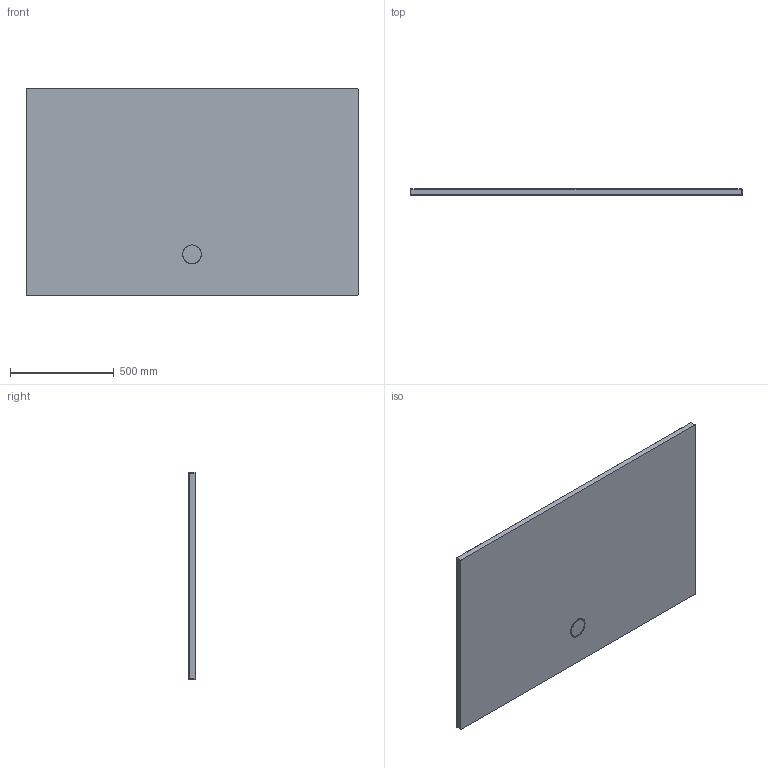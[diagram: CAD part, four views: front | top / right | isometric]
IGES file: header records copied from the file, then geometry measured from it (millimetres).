
Start section: SolidWorks IGES file using analytic representation for surfaces
Global section: file name: D:\Users\M.Szymanski\Desktop\B-M_Space\B_M_100x160x1,5.IGS; native system: SolidWorks 2011; preprocessor: SolidWorks 2011; author: M.Szymanski; date: 180216.070425; units: millimetre
Bounding box: 1600 x 30 x 1000 mm (x, y, z)
Surface area: 3368472.8 mm2 (no closed solid volume)
Topology: 0 solids, 0 shells, 61 faces, 739 edges, 736 vertices
Faces by surface type: bspline 39, revolution 22
